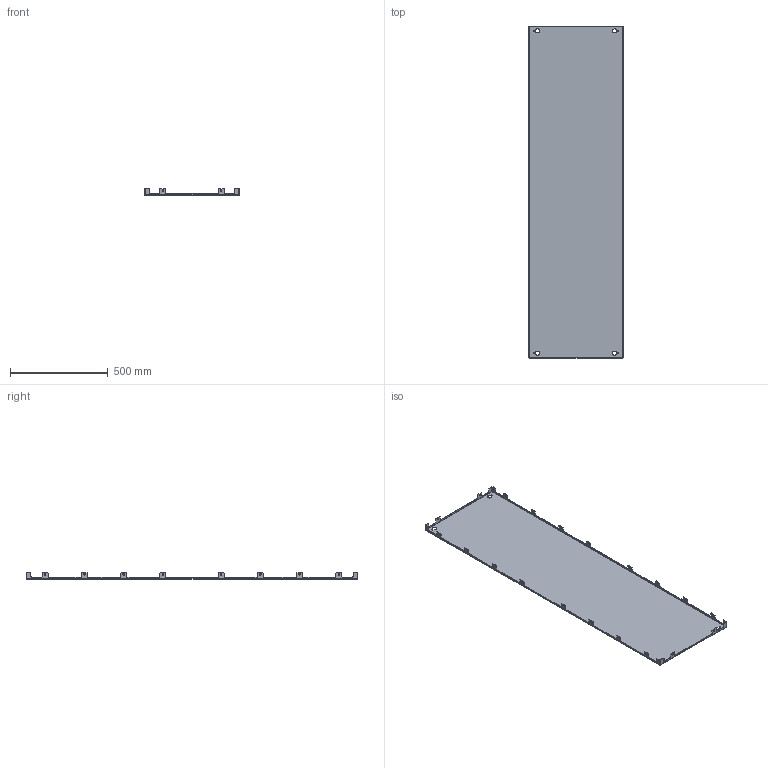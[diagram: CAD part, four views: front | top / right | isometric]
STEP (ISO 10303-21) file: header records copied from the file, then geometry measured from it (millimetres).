
FILE_DESCRIPTION (( 'STEP AP203' ), '1' );
FILE_NAME ('R5LPS1806.STEP', '2021-12-17T12:44:30', ( '' ), ( '' ), 'SwSTEP 2.0', 'SolidWorks 2020', '' );
FILE_SCHEMA (( 'CONFIG_CONTROL_DESIGN' ));
Length unit declared in the file: millimetre
Products named in the file (1): R5LPS1806
Bounding box: 484 x 1698 x 32.5 mm (x, y, z)
Volume: 1735882.4 mm3; surface area: 1748801.9 mm2
Topology: 1 solids, 1 shells, 380 faces, 1102 edges, 724 vertices
Faces by surface type: plane 242, cylinder 138
Entity records: 12659 total; most frequent: CARTESIAN_POINT 2207, ORIENTED_EDGE 2204, DIRECTION 2140, EDGE_CURVE 1102, VECTOR 826, LINE 826, VERTEX_POINT 724, AXIS2_PLACEMENT_3D 657
